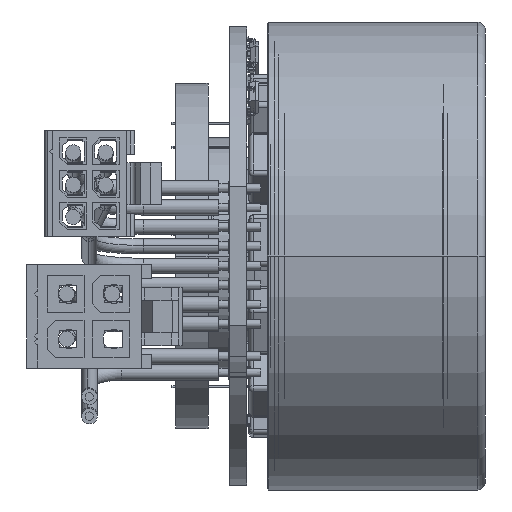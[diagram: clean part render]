
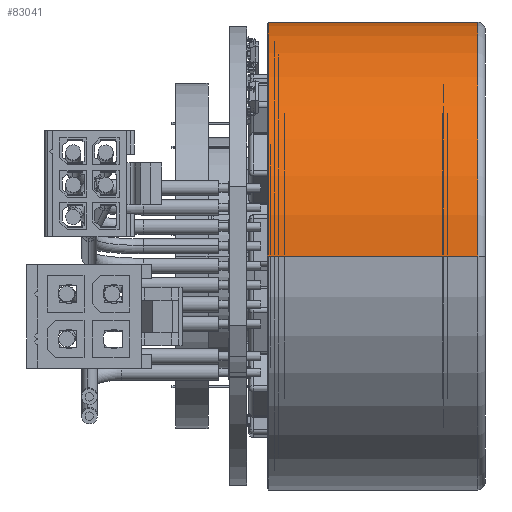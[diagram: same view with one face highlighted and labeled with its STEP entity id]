
A CAD part, front view. The second image highlights one B-rep face of the part: STEP entity #83041.
In plain terms, the highlighted cylindrical face has radius 21.7 mm (diameter 43.4 mm), a partial arc.
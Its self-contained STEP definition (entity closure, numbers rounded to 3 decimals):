
#82032=CARTESIAN_POINT('',(8.6,0.,0.));
#82033=DIRECTION('',(-1.,0.,0.));
#82034=DIRECTION('',(0.,-1.,0.));
#82035=AXIS2_PLACEMENT_3D('',#82032,#82033,#82034);
#82040=CARTESIAN_POINT('',(28.,0.,0.));
#82041=DIRECTION('',(-1.,0.,0.));
#82042=DIRECTION('',(0.,-1.,0.));
#82043=AXIS2_PLACEMENT_3D('',#82040,#82041,#82042);
#82056=DIRECTION('',(-1.,0.,0.));
#82057=VECTOR('',#82056,19.4);
#82058=CARTESIAN_POINT('',(28.,-21.7,0.));
#82059=LINE('',#82058,#82057);
#82071=DIRECTION('',(-1.,0.,0.));
#82072=VECTOR('',#82071,19.4);
#82073=CARTESIAN_POINT('',(28.,21.7,0.));
#82074=LINE('',#82073,#82072);
#82880=CARTESIAN_POINT('',(28.,21.7,0.));
#82881=CARTESIAN_POINT('',(28.,-21.7,0.));
#82882=VERTEX_POINT('',#82880);
#82883=VERTEX_POINT('',#82881);
#82920=CARTESIAN_POINT('',(8.6,-21.7,0.));
#82921=CARTESIAN_POINT('',(8.6,21.7,0.));
#82922=VERTEX_POINT('',#82920);
#82923=VERTEX_POINT('',#82921);
#83027=CARTESIAN_POINT('',(-18.76,0.,0.));
#83028=DIRECTION('',(1.,0.,0.));
#83029=DIRECTION('',(0.,-1.,0.));
#83030=AXIS2_PLACEMENT_3D('',#83027,#83028,#83029);
#83031=CYLINDRICAL_SURFACE('',#83030,21.7);
#83032=ORIENTED_EDGE('',*,*,#83014,.T.);
#83034=ORIENTED_EDGE('',*,*,#83033,.F.);
#83036=ORIENTED_EDGE('',*,*,#83035,.F.);
#83038=ORIENTED_EDGE('',*,*,#83037,.T.);
#83039=EDGE_LOOP('',(#83032,#83034,#83036,#83038));
#83040=FACE_OUTER_BOUND('',#83039,.F.);
#83041=ADVANCED_FACE('',(#83040),#83031,.T.);
#82036=CIRCLE('',#82035,21.7);
#82044=CIRCLE('',#82043,21.7);
#83014=EDGE_CURVE('',#82922,#82923,#82036,.T.);
#83033=EDGE_CURVE('',#82882,#82923,#82074,.T.);
#83035=EDGE_CURVE('',#82883,#82882,#82044,.T.);
#83037=EDGE_CURVE('',#82883,#82922,#82059,.T.);
